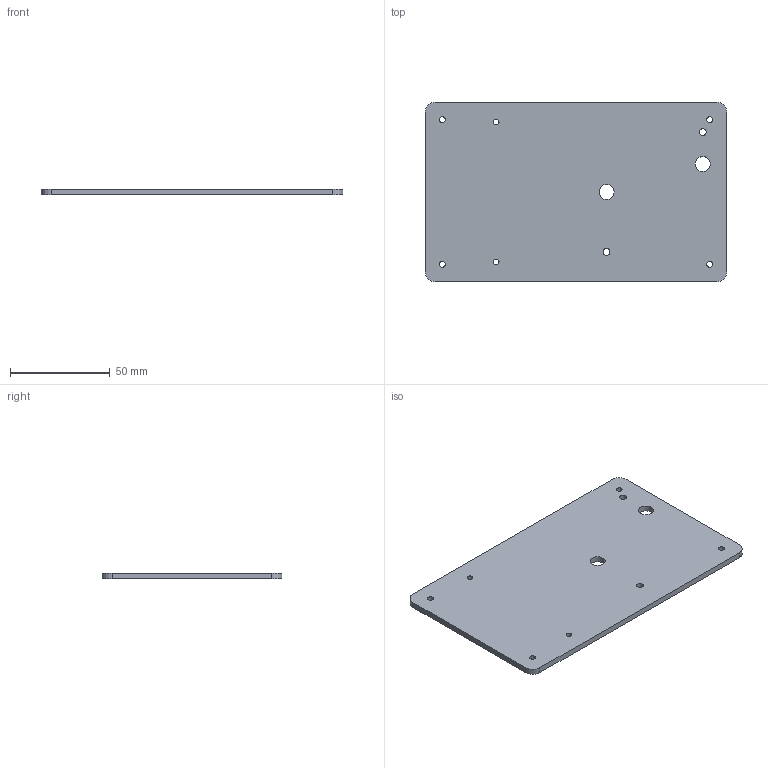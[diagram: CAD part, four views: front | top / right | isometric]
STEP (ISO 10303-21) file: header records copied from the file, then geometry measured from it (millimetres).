
FILE_DESCRIPTION(('Open CASCADE Model'),'2;1');
FILE_NAME('Open CASCADE Shape Model','2026-08-29T07:31:46',('Author'),( 'Open CASCADE'),'Open CASCADE STEP processor 7.9','build123d', 'Unknown');
FILE_SCHEMA(('AUTOMOTIVE_DESIGN { 1 0 10303 214 1 1 1 1 }'));
Length unit declared in the file: millimetre
Products named in the file (2): =>[0:1:1:2]; COMPOUND
Assembly tree (1 placements, depth 2):
  =>[0:1:1:2]
    COMPOUND
Bounding box: 151 x 90 x 3 mm (x, y, z)
Volume: 40200.1 mm3; surface area: 28631.5 mm2
Topology: 1 solids, 1 shells, 20 faces, 54 edges, 36 vertices
Faces by surface type: cylinder 14, plane 6
Full cylindrical faces by diameter (mm): 2.9 x6, 3.4 x2, 7.5 x2
Entity records: 1440 total; most frequent: CARTESIAN_POINT 268, DIRECTION 226, ORIENTED_EDGE 108, PCURVE 108, DEFINITIONAL_REPRESENTATION 108, LINE 106, VECTOR 106, EDGE_CURVE 54
